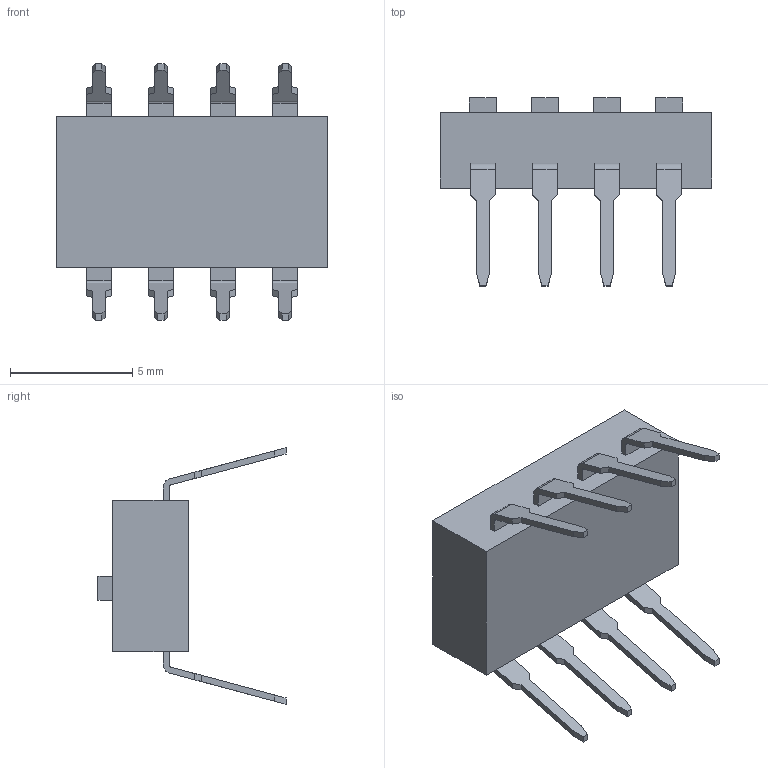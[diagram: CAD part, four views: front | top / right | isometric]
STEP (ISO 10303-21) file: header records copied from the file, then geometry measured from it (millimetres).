
FILE_DESCRIPTION(('STEP AP242'),'1');
FILE_NAME('19758.stp','2020-01-25T12:11:39',('TraceParts'),('TraceParts S.A.'),'Spatial InterOp 3D',' ',' ');
FILE_SCHEMA(('AP242_MANAGED_MODEL_BASED_3D_ENGINEERING_MIM_LF {1 0 10303 442 1 1 4}'));
Length unit declared in the file: millimetre
Products named in the file (1): 19758
Bounding box: 11.1 x 7.7 x 10.5 mm (x, y, z)
Volume: 216.2 mm3; surface area: 366.9 mm2
Topology: 1 solids, 1 shells, 166 faces, 444 edges, 296 vertices
Faces by surface type: plane 150, cylinder 16
Entity records: 10144 total; most frequent: CARTESIAN_POINT 907, STYLED_ITEM 906, PRESENTATION_STYLE_ASSIGNMENT 906, COLOUR_RGB 906, ORIENTED_EDGE 888, DIRECTION 810, EDGE_CURVE 444, CURVE_STYLE 444
